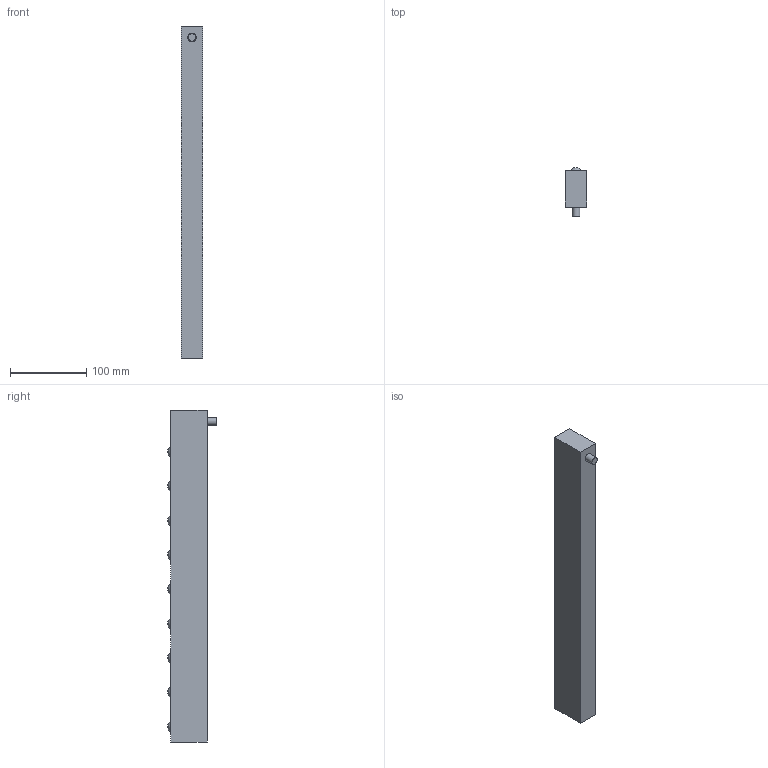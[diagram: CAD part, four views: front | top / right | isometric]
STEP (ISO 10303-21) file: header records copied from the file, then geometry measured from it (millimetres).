
FILE_DESCRIPTION(/* description */ (''),/* implementation_level */ '2;1');
FILE_NAME(/* name */ 'V:\Shrinkwrap\EMB\EMB - SHRINKWRAP\EMP28\EMB28-9_Shrinkwrap_1.stp',/* time_stamp */ '2022-08-12T11:23:06+02:00',/* author */ ('cw'),/* organization */ (''),/* preprocessor_version */ 'ST-DEVELOPER v17',/* originating_system */ 'Autodesk Inventor 2019',/* authorisation */ '');
FILE_SCHEMA (('AUTOMOTIVE_DESIGN { 1 0 10303 214 3 1 1 }'));
Length unit declared in the file: millimetre
Products named in the file (1): EMB28-9_Shrinkwrap_1
Bounding box: 27.8 x 64.05 x 435 mm (x, y, z)
Volume: 576200.6 mm3; surface area: 72699.9 mm2
Topology: 1 solids, 1 shells, 41 faces, 77 edges, 62 vertices
Faces by surface type: plane 19, cylinder 13, sphere 9
Full cylindrical faces by diameter (mm): 10 x1, 11 x1, 16 x1, 18 x1, 21.5 x9
Entity records: 1197 total; most frequent: DIRECTION 209, CARTESIAN_POINT 179, ORIENTED_EDGE 150, AXIS2_PLACEMENT_3D 92, EDGE_CURVE 75, EDGE_LOOP 63, VERTEX_POINT 58, CIRCLE 50
